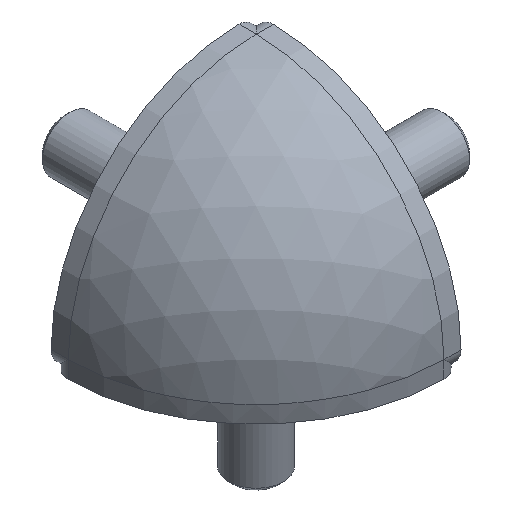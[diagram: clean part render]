
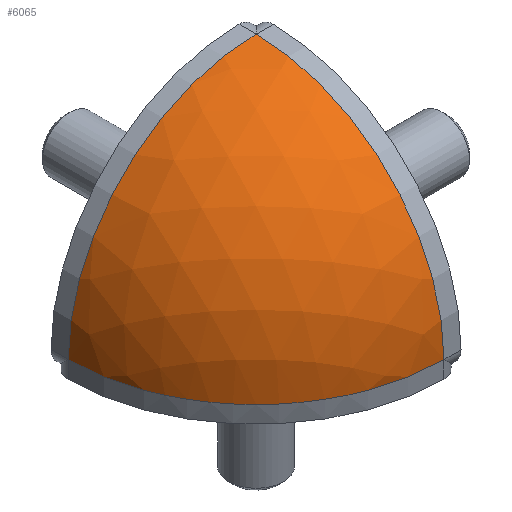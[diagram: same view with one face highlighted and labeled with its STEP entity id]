
A CAD part, isometric view. The second image highlights one B-rep face of the part: STEP entity #6065.
In plain terms, the highlighted spherical face has radius 27.5 mm.
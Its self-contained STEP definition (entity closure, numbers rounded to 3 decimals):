
#5575=CARTESIAN_POINT('',(376.528,113.824,-26.861));
#5576=VERTEX_POINT('',#5575);
#5699=CARTESIAN_POINT('',(376.525,141.322,0.64));
#5700=VERTEX_POINT('',#5699);
#5804=CARTESIAN_POINT('',(349.026,141.322,-26.861));
#5805=VERTEX_POINT('',#5804);
#6008=CARTESIAN_POINT('',(376.526,141.324,-26.86));
#6009=DIRECTION('',(1.,0.,0.));
#6010=DIRECTION('',(0.,0.,1.));
#6011=AXIS2_PLACEMENT_3D('',#6008,#6009,#6010);
#6012=CIRCLE('',#6011,27.5);
#6013=EDGE_CURVE('',#5700,#5576,#6012,.T.);
#6026=CARTESIAN_POINT('',(376.526,141.324,-26.86));
#6027=DIRECTION('',(0.,1.,0.));
#6028=DIRECTION('',(-1.,0.,0.));
#6029=AXIS2_PLACEMENT_3D('',#6026,#6027,#6028);
#6030=CIRCLE('',#6029,27.5);
#6031=EDGE_CURVE('',#5805,#5700,#6030,.T.);
#6042=CARTESIAN_POINT('',(376.526,141.324,-26.86));
#6043=DIRECTION('',(0.,0.,1.));
#6044=DIRECTION('',(-0.707,-0.707,0.));
#6045=AXIS2_PLACEMENT_3D('',#6042,#6043,#6044);
#6046=CIRCLE('',#6045,27.5);
#6047=EDGE_CURVE('',#5805,#5576,#6046,.T.);
#6055=CARTESIAN_POINT('',(376.526,141.324,-26.86));
#6056=DIRECTION('',(0.577,0.577,0.577));
#6057=DIRECTION('',(-0.707,0.0,0.707));
#6058=AXIS2_PLACEMENT_3D('',#6055,#6056,#6057);
#6059=SPHERICAL_SURFACE('',#6058,27.5);
#6060=ORIENTED_EDGE('',*,*,#6031,.F.);
#6061=ORIENTED_EDGE('',*,*,#6047,.T.);
#6062=ORIENTED_EDGE('',*,*,#6013,.F.);
#6063=EDGE_LOOP('',(#6060,#6061,#6062));
#6064=FACE_OUTER_BOUND('',#6063,.T.);
#6065=ADVANCED_FACE('',(#6064),#6059,.T.);
